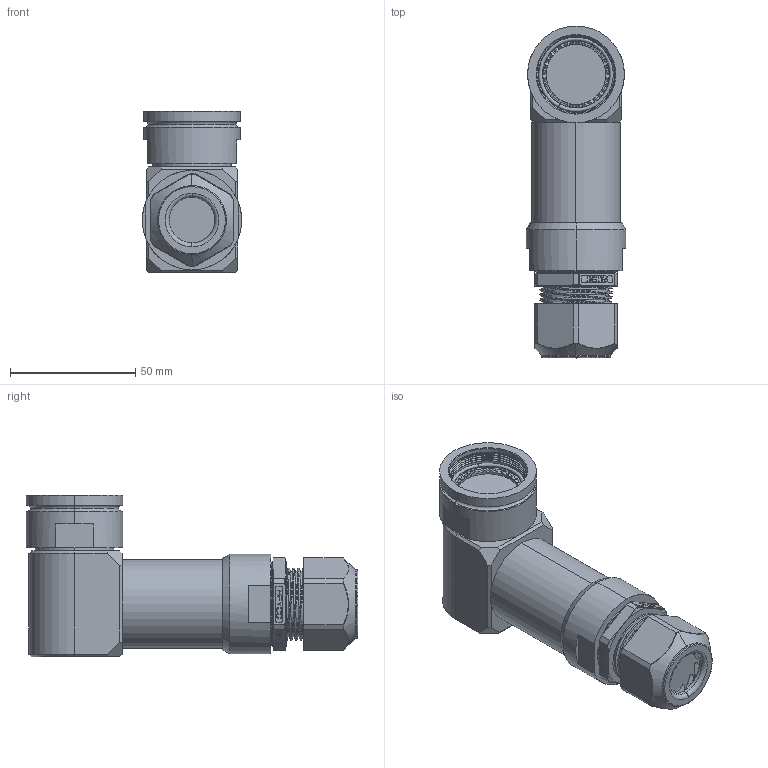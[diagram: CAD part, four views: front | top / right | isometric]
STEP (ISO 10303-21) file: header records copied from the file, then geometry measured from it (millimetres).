
FILE_DESCRIPTION (( 'STEP AP214' ), '1' );
FILE_NAME ('Q38EBSHELL-90X-21-XXXX-GL.STEP', '2025-09-25T17:36:18', ( '' ), ( '' ), 'SwSTEP 2.0', 'SolidWorks 2024', '' );
FILE_SCHEMA (( 'AUTOMOTIVE_DESIGN' ));
Length unit declared in the file: millimetre
Products named in the file (1): Q38EBSHELL-90X-21-XXXX-GL
Bounding box: 39.62 x 132.28 x 64.41 mm (x, y, z)
Surface area: 42419.2 mm2 (no closed solid volume)
Topology: 0 solids, 10 shells, 1386 faces, 3706 edges, 2396 vertices
Faces by surface type: plane 729, cylinder 247, bspline 146, cone 123, torus 121, sphere 20
Entity records: 65905 total; most frequent: CARTESIAN_POINT 38154, ORIENTED_EDGE 7363, EDGE_CURVE 3706, DIRECTION 3347, B_SPLINE_CURVE_WITH_KNOTS 2849, VERTEX_POINT 2396, AXIS2_PLACEMENT_3D 1513, EDGE_LOOP 1458
